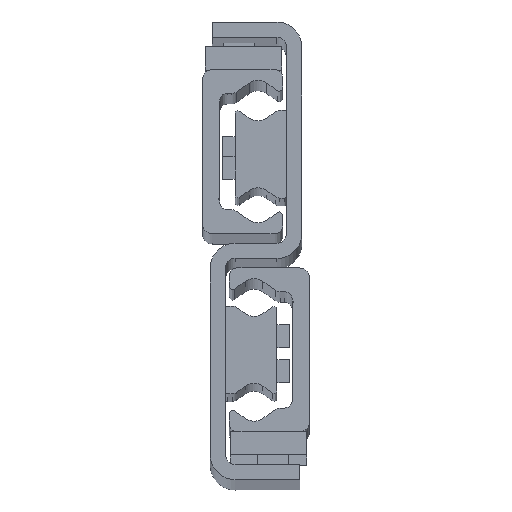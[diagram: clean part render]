
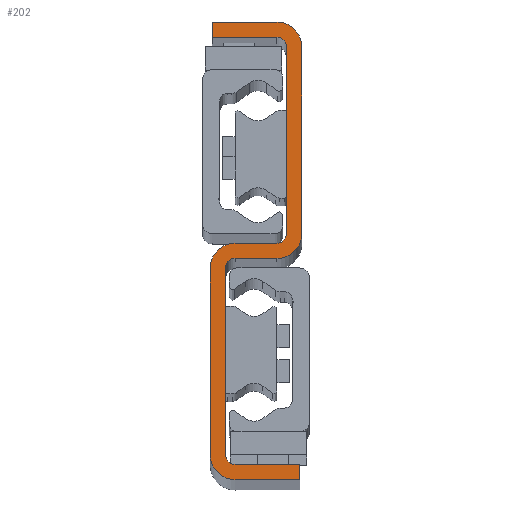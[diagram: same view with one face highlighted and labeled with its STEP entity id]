
A CAD part, top view. The second image highlights one B-rep face of the part: STEP entity #202.
In plain terms, the highlighted planar face has unit normal (0, 0, 1).
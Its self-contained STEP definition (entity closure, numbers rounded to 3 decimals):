
#202=ADVANCED_FACE('',(#721),#722,.T.);
#721=FACE_OUTER_BOUND('',#1571,.T.);
#722=PLANE('',#1572);
#1571=EDGE_LOOP('',(#3117,#3118,#3119,#3120,#3121,#3122,#3123,#3124,#3125,#3126,#3127,#3128,#3129,#3130,#3131,#3132,#3133,#3134,#3135,#3136));
#1572=AXIS2_PLACEMENT_3D('',#3137,#3138,#3139);
#3117=ORIENTED_EDGE('',*,*,#5493,.F.);
#3118=ORIENTED_EDGE('',*,*,#5551,.F.);
#3119=ORIENTED_EDGE('',*,*,#5548,.F.);
#3120=ORIENTED_EDGE('',*,*,#5545,.F.);
#3121=ORIENTED_EDGE('',*,*,#5542,.F.);
#3122=ORIENTED_EDGE('',*,*,#5539,.F.);
#3123=ORIENTED_EDGE('',*,*,#5536,.F.);
#3124=ORIENTED_EDGE('',*,*,#5533,.F.);
#3125=ORIENTED_EDGE('',*,*,#5530,.F.);
#3126=ORIENTED_EDGE('',*,*,#5527,.F.);
#3127=ORIENTED_EDGE('',*,*,#5524,.F.);
#3128=ORIENTED_EDGE('',*,*,#5521,.F.);
#3129=ORIENTED_EDGE('',*,*,#5518,.F.);
#3130=ORIENTED_EDGE('',*,*,#5515,.F.);
#3131=ORIENTED_EDGE('',*,*,#5512,.F.);
#3132=ORIENTED_EDGE('',*,*,#5509,.F.);
#3133=ORIENTED_EDGE('',*,*,#5506,.F.);
#3134=ORIENTED_EDGE('',*,*,#5503,.F.);
#3135=ORIENTED_EDGE('',*,*,#5500,.F.);
#3136=ORIENTED_EDGE('',*,*,#5497,.F.);
#3137=CARTESIAN_POINT('',(-14.,26.,1570.0));
#3138=DIRECTION('',(0.0,0.0,1.0));
#3139=DIRECTION('',(1.0,0.0,0.0));
#5493=EDGE_CURVE('',#6651,#6652,#6653,.T.);
#5497=EDGE_CURVE('',#6652,#6659,#6660,.T.);
#5500=EDGE_CURVE('',#6659,#6664,#6665,.T.);
#5503=EDGE_CURVE('',#6664,#6669,#6670,.T.);
#5506=EDGE_CURVE('',#6669,#6674,#6675,.T.);
#5509=EDGE_CURVE('',#6674,#6679,#6680,.T.);
#5512=EDGE_CURVE('',#6679,#6684,#6685,.T.);
#5515=EDGE_CURVE('',#6684,#6689,#6690,.T.);
#5518=EDGE_CURVE('',#6689,#6694,#6695,.T.);
#5521=EDGE_CURVE('',#6694,#6699,#6700,.T.);
#5524=EDGE_CURVE('',#6699,#6704,#6705,.T.);
#5527=EDGE_CURVE('',#6704,#6709,#6710,.T.);
#5530=EDGE_CURVE('',#6709,#6714,#6715,.T.);
#5533=EDGE_CURVE('',#6714,#6719,#6720,.T.);
#5536=EDGE_CURVE('',#6719,#6724,#6725,.T.);
#5539=EDGE_CURVE('',#6724,#6729,#6730,.T.);
#5542=EDGE_CURVE('',#6729,#6734,#6735,.T.);
#5545=EDGE_CURVE('',#6734,#6739,#6740,.T.);
#5548=EDGE_CURVE('',#6739,#6744,#6745,.T.);
#5551=EDGE_CURVE('',#6744,#6651,#6749,.T.);
#6651=VERTEX_POINT('',#8453);
#6652=VERTEX_POINT('',#8454);
#6653=LINE('',#8455,#8456);
#6659=VERTEX_POINT('',#8465);
#6660=CIRCLE('',#8466,2.5);
#6664=VERTEX_POINT('',#8471);
#6665=LINE('',#8472,#8473);
#6669=VERTEX_POINT('',#8479);
#6670=CIRCLE('',#8480,2.5);
#6674=VERTEX_POINT('',#8485);
#6675=LINE('',#8486,#8487);
#6679=VERTEX_POINT('',#8493);
#6680=LINE('',#8494,#8495);
#6684=VERTEX_POINT('',#8501);
#6685=LINE('',#8502,#8503);
#6689=VERTEX_POINT('',#8509);
#6690=CIRCLE('',#8510,6.5);
#6694=VERTEX_POINT('',#8515);
#6695=LINE('',#8516,#8517);
#6699=VERTEX_POINT('',#8523);
#6700=CIRCLE('',#8524,6.5);
#6704=VERTEX_POINT('',#8529);
#6705=LINE('',#8530,#8531);
#6709=VERTEX_POINT('',#8537);
#6710=CIRCLE('',#8538,2.5);
#6714=VERTEX_POINT('',#8543);
#6715=LINE('',#8544,#8545);
#6719=VERTEX_POINT('',#8551);
#6720=CIRCLE('',#8552,2.5);
#6724=VERTEX_POINT('',#8557);
#6725=LINE('',#8558,#8559);
#6729=VERTEX_POINT('',#8565);
#6730=LINE('',#8566,#8567);
#6734=VERTEX_POINT('',#8573);
#6735=LINE('',#8574,#8575);
#6739=VERTEX_POINT('',#8581);
#6740=CIRCLE('',#8582,6.5);
#6744=VERTEX_POINT('',#8587);
#6745=LINE('',#8588,#8589);
#6749=CIRCLE('',#8595,6.5);
#8453=CARTESIAN_POINT('',(-8.5,24.,1570.0));
#8454=CARTESIAN_POINT('',(-19.5,24.,1570.0));
#8455=CARTESIAN_POINT('',(-8.5,24.,1570.0));
#8456=VECTOR('',#10421,1.0);
#8465=CARTESIAN_POINT('',(-22.,21.5,1570.0));
#8466=AXIS2_PLACEMENT_3D('',#10425,#10426,#10427);
#8471=CARTESIAN_POINT('',(-22.,-27.5,1570.0));
#8472=CARTESIAN_POINT('',(-22.,-27.5,1570.0));
#8473=VECTOR('',#10432,1.0);
#8479=CARTESIAN_POINT('',(-19.5,-30.,1570.0));
#8480=AXIS2_PLACEMENT_3D('',#10435,#10436,#10437);
#8485=CARTESIAN_POINT('',(-2.5,-30.,1570.0));
#8486=CARTESIAN_POINT('',(-19.5,-30.,1570.0));
#8487=VECTOR('',#10442,1.0);
#8493=CARTESIAN_POINT('',(-2.5,-34.,1570.0));
#8494=CARTESIAN_POINT('',(-2.5,-34.,1570.0));
#8495=VECTOR('',#10445,1.0);
#8501=CARTESIAN_POINT('',(-19.5,-34.,1570.0));
#8502=CARTESIAN_POINT('',(-19.5,-34.,1570.0));
#8503=VECTOR('',#10448,1.0);
#8509=CARTESIAN_POINT('',(-26.,-27.5,1570.0));
#8510=AXIS2_PLACEMENT_3D('',#10451,#10452,#10453);
#8515=CARTESIAN_POINT('',(-26.,21.5,1570.0));
#8516=CARTESIAN_POINT('',(-26.,21.5,1570.0));
#8517=VECTOR('',#10458,1.0);
#8523=CARTESIAN_POINT('',(-19.5,28.,1570.0));
#8524=AXIS2_PLACEMENT_3D('',#10461,#10462,#10463);
#8529=CARTESIAN_POINT('',(-8.5,28.,1570.0));
#8530=CARTESIAN_POINT('',(-8.5,28.,1570.0));
#8531=VECTOR('',#10468,1.0);
#8537=CARTESIAN_POINT('',(-6.,30.5,1570.0));
#8538=AXIS2_PLACEMENT_3D('',#10471,#10472,#10473);
#8543=CARTESIAN_POINT('',(-6.,79.5,1570.0));
#8544=CARTESIAN_POINT('',(-6.,79.5,1570.0));
#8545=VECTOR('',#10478,1.0);
#8551=CARTESIAN_POINT('',(-8.5,82.,1570.0));
#8552=AXIS2_PLACEMENT_3D('',#10481,#10482,#10483);
#8557=CARTESIAN_POINT('',(-25.5,82.,1570.0));
#8558=CARTESIAN_POINT('',(-25.5,82.,1570.0));
#8559=VECTOR('',#10488,1.0);
#8565=CARTESIAN_POINT('',(-25.5,86.,1570.0));
#8566=CARTESIAN_POINT('',(-25.5,86.,1570.0));
#8567=VECTOR('',#10491,1.0);
#8573=CARTESIAN_POINT('',(-8.5,86.,1570.0));
#8574=CARTESIAN_POINT('',(-25.5,86.,1570.0));
#8575=VECTOR('',#10494,1.0);
#8581=CARTESIAN_POINT('',(-2.,79.5,1570.0));
#8582=AXIS2_PLACEMENT_3D('',#10497,#10498,#10499);
#8587=CARTESIAN_POINT('',(-2.,30.5,1570.0));
#8588=CARTESIAN_POINT('',(-2.,79.5,1570.0));
#8589=VECTOR('',#10504,1.0);
#8595=AXIS2_PLACEMENT_3D('',#10507,#10508,#10509);
#10421=DIRECTION('',(-1.0,0.,0.0));
#10425=CARTESIAN_POINT('',(-19.5,21.5,1570.0));
#10426=DIRECTION('',(0.0,0.0,1.0));
#10427=DIRECTION('',(1.0,0.0,0.0));
#10432=DIRECTION('',(-0.0,-1.0,-0.0));
#10435=CARTESIAN_POINT('',(-19.5,-27.5,1570.0));
#10436=DIRECTION('',(0.0,0.0,1.0));
#10437=DIRECTION('',(1.0,0.0,0.0));
#10442=DIRECTION('',(1.,0.,0.0));
#10445=DIRECTION('',(-0.0,-1.0,-0.0));
#10448=DIRECTION('',(-1.,0.,-0.0));
#10451=CARTESIAN_POINT('',(-19.5,-27.5,1570.0));
#10452=DIRECTION('',(0.0,0.0,-1.0));
#10453=DIRECTION('',(1.0,0.0,0.0));
#10458=DIRECTION('',(0.0,1.0,0.0));
#10461=CARTESIAN_POINT('',(-19.5,21.5,1570.0));
#10462=DIRECTION('',(0.0,0.0,-1.0));
#10463=DIRECTION('',(1.0,0.0,0.0));
#10468=DIRECTION('',(1.0,0.,0.0));
#10471=CARTESIAN_POINT('',(-8.5,30.5,1570.0));
#10472=DIRECTION('',(0.0,0.0,1.0));
#10473=DIRECTION('',(1.0,0.0,0.0));
#10478=DIRECTION('',(0.0,1.0,0.0));
#10481=CARTESIAN_POINT('',(-8.5,79.5,1570.0));
#10482=DIRECTION('',(0.0,0.0,1.0));
#10483=DIRECTION('',(1.0,0.0,0.0));
#10488=DIRECTION('',(-1.,0.,0.0));
#10491=DIRECTION('',(0.0,1.0,0.0));
#10494=DIRECTION('',(1.,0.,0.0));
#10497=CARTESIAN_POINT('',(-8.5,79.5,1570.0));
#10498=DIRECTION('',(0.0,0.0,-1.0));
#10499=DIRECTION('',(1.0,0.0,0.0));
#10504=DIRECTION('',(0.,-1.0,0.0));
#10507=CARTESIAN_POINT('',(-8.5,30.5,1570.0));
#10508=DIRECTION('',(0.0,0.0,-1.0));
#10509=DIRECTION('',(1.0,0.0,0.0));
